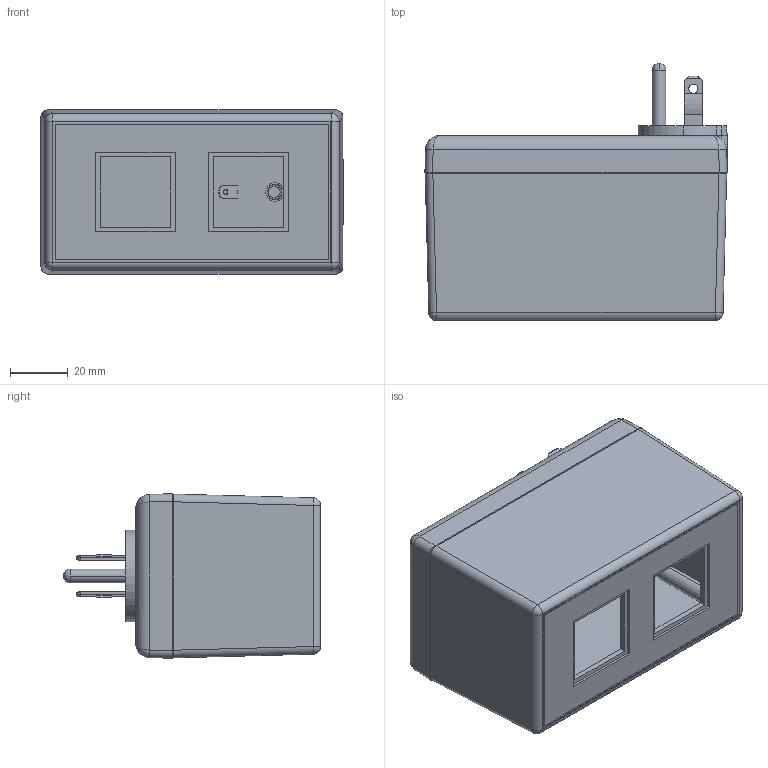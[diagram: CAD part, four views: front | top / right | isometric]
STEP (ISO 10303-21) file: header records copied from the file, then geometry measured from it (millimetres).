
FILE_DESCRIPTION (( 'STEP AP214' ), '1' );
FILE_NAME ('PM2425T23XNT.STEP', '2010-07-15T14:21:35', ( '' ), ( '' ), 'SwSTEP 2.0', 'SolidWorks 2010', '' );
FILE_SCHEMA (( 'AUTOMOTIVE_DESIGN' ));
Length unit declared in the file: inch
Products named in the file (10): TS-2420B AND PM2420_PM2420T2; B2405 ASS''Y_B24053XNT; MPB2405_MPB24053NT; GND-PIN; BLADES; WELD DISC-PS-BK; GND-TAB; SCREWS-HL1-BR; B2405-PCB; PM2425T23XNT
Assembly tree (13 placements, depth 3):
  PM2425T23XNT
    SCREWS-HL1-BR  x4
    B2405 ASS''Y_B24053XNT
      BLADES  x2
      GND-PIN
      WELD DISC-PS-BK
      GND-TAB
      MPB2405_MPB24053NT
    B2405-PCB
    TS-2420B AND PM2420_PM2420T2
Bounding box: 104.6 x 89.03 x 56.95 mm (x, y, z)
Volume: 86353 mm3; surface area: 81345 mm2
Topology: 12 solids, 12 shells, 973 faces, 2704 edges, 1767 vertices
Faces by surface type: cylinder 522, plane 320, cone 77, bspline 28, sphere 14, torus 12
Entity records: 21215 total; most frequent: CARTESIAN_POINT 6654, ORIENTED_EDGE 3126, DIRECTION 2811, EDGE_CURVE 1563, VERTEX_POINT 1017, AXIS2_PLACEMENT_3D 999, LINE 813, VECTOR 813
